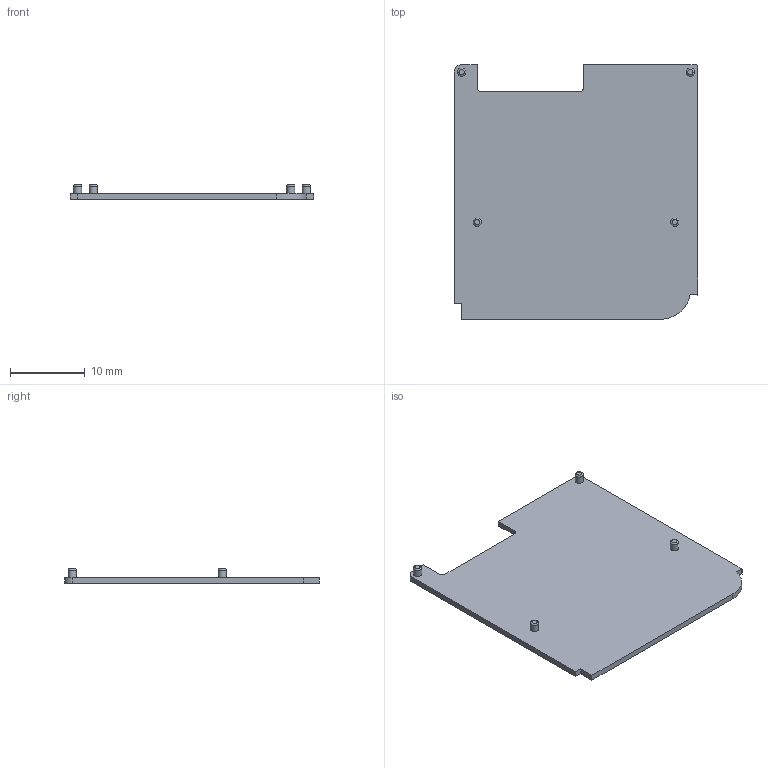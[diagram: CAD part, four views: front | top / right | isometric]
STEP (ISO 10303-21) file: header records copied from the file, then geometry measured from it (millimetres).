
FILE_DESCRIPTION(/* description */ (''),/* implementation_level */ '2;1');
FILE_NAME(/* name */ 'C:\Users\Nico\Documents\GitHub\dspico-hardware\dspico-shell\3d-models\v1.4\dspico-shell-top-DEV-s-t.stp',/* time_stamp */ '2024-06-30T17:05:45+02:00',/* author */ ('Nico'),/* organization */ (''),/* preprocessor_version */ 'ST-DEVELOPER v19',/* originating_system */ 'Autodesk Inventor 2023',/* authorisation */ '');
FILE_SCHEMA (('AUTOMOTIVE_DESIGN { 1 0 10303 214 3 1 1 }'));
Length unit declared in the file: millimetre
Products named in the file (1): dspico-shell
Bounding box: 32.6 x 34.05 x 2 mm (x, y, z)
Volume: 715.9 mm3; surface area: 2267.6 mm2
Topology: 1 solids, 1 shells, 362 faces, 989 edges, 662 vertices
Faces by surface type: plane 201, bspline 144, cylinder 13, torus 4
Full cylindrical faces by diameter (mm): 1.1 x4
Entity records: 12288 total; most frequent: CARTESIAN_POINT 3862, ORIENTED_EDGE 1978, DIRECTION 1173, EDGE_CURVE 989, LINE 667, VECTOR 667, VERTEX_POINT 658, EDGE_LOOP 391
